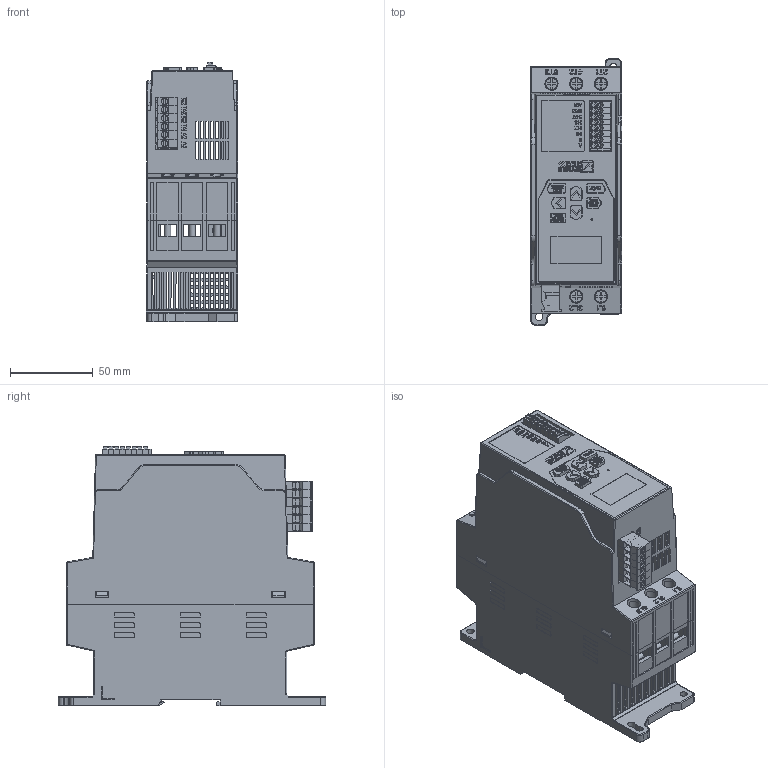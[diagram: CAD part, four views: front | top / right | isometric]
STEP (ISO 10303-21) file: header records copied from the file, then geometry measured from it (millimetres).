
FILE_DESCRIPTION((''),'2;1');
FILE_NAME('360-15-0_ASM','2025-04-02T11:45:07',('13048'),(''),'CREO PARAMETRIC BY PTC INC, 2021063','CREO PARAMETRIC BY PTC INC, 2021063','');
FILE_SCHEMA(('AUTOMOTIVE_DESIGN { 1 0 10303 214 1 1 1 1 }'));
Products named in the file (37): 8800-11-PCB-1_1_1; _3-10001_1_1; 8800-11-000_1_1; 8800-508-5P-00_1_1; 8800-11-PCB-2_1_1; 8800-11--12864COG000_1_1; _1D5-000001_4_1; _3D5-000001_3_1; _3D-000001_4_1; _3D5-60001_ASM_6_ASM_1_ASM; _RJ450001_6_1; _6-6-80001_4_1; 8800-11-PCB-200_ASM_1_ASM_1_ASM; 8800-11-PCB00_22_1; _100A00_1_1_1; _100A00_1_2_1; _100A00_1_ASM_1_ASM; MCI04422-60A000_1_1; 8800-11-PCB00_ASM_15_ASM_1_ASM; PL2D5B-5-508-05_1_1; _-11-0002_1_1; _-11-0003_47_1; 8800-11-W00_1_1; 8800-11--100_1_1; 8800-11-PCB-1_ASM_31_ASM_1_ASM; 8800-11-0_29_1_1_1; 8800-11-PCB-1_ASM_29_ASM_1_ASM__ASM; 8800-11-0_59_1_1_1; 8800-0001_1_1_1_1; _-11-0001_ASM_32_ASM_1_ASM_1_AS_ASM; 8800-11-11-24_ASM_1_ASM_1_ASM_1_ASM; _-11-0001_ASM_39_ASM_1_ASM; 360-11-000; 8800-11-11-25-2_ASM_ASM_1_ASM; 360-OP; 360-11-100; 360-15-0_ASM
Assembly tree (64 placements, depth 7):
  360-15-0_ASM
    8800-11-11-25-2_ASM_ASM_1_ASM
      _-11-0001_ASM_39_ASM_1_ASM
        8800-11-PCB-1_ASM_31_ASM_1_ASM
          8800-11-PCB-1_1_1
          _3-10001_1_1
          8800-11-000_1_1
          8800-508-5P-00_1_1
          8800-11-PCB-200_ASM_1_ASM_1_ASM
            8800-11-PCB-2_1_1
            8800-11--12864COG000_1_1
            _3D5-60001_ASM_6_ASM_1_ASM
              _1D5-000001_4_1
              _3D5-000001_3_1  x3
              _3D-000001_4_1  x3
            _RJ450001_6_1
            _6-6-80001_4_1  x7
            _3D5-000001_3_1
            _3D-000001_4_1
          8800-11-PCB00_ASM_15_ASM_1_ASM
            8800-11-PCB00_22_1
            _100A00_1_ASM_1_ASM  x2
              _100A00_1_1_1
              _100A00_1_2_1
            MCI04422-60A000_1_1  x6
          PL2D5B-5-508-05_1_1  x6
          _-11-0002_1_1  x6
          _-11-0003_47_1
          8800-11-W00_1_1
          8800-11--100_1_1
        8800-11-11-24_ASM_1_ASM_1_ASM_1_ASM
          _-11-0001_ASM_32_ASM_1_ASM_1_AS_ASM
            8800-11-0_29_1_1_1
            8800-11-PCB-1_ASM_29_ASM_1_ASM__ASM
            8800-11-0_59_1_1_1
            8800-0001_1_1_1_1
      360-11-000
    360-OP
    360-11-100
Bounding box: 55.3 x 162 x 157.14 mm (x, y, z)
Volume: 313405.3 mm3; surface area: 317564.6 mm2
Topology: 70 solids, 70 shells, 6749 faces, 18942 edges, 12557 vertices
Faces by surface type: plane 4641, cylinder 1716, extrusion 300, torus 53, cone 24, sphere 11, bspline 4
Entity records: 227955 total; most frequent: CARTESIAN_POINT 37478, ORIENTED_EDGE 30614, DIRECTION 26951, EDGE_CURVE 15307, PRESENTATION_STYLE_ASSIGNMENT 15097, STYLED_ITEM 14968, CURVE_STYLE 14805, VECTOR 12247
